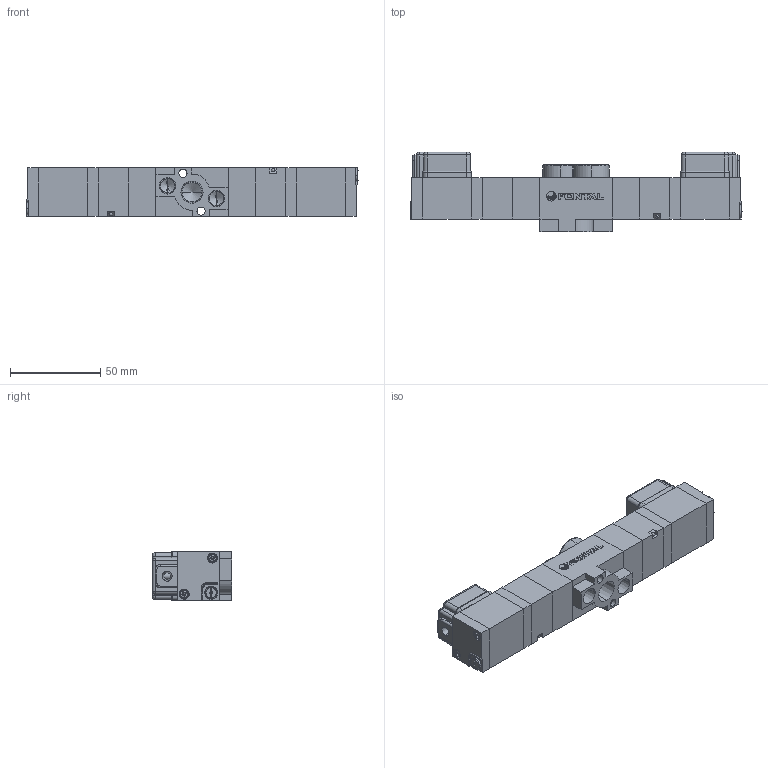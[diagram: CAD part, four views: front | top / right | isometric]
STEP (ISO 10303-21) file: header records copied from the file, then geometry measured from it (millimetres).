
FILE_DESCRIPTION (( 'STEP AP203' ), '1' );
FILE_NAME ('RCD(E¡BO)3406-02-#G##.STEP', '2016-02-04T06:07:33', ( 'Sam Lin' ), ( '' ), 'SwSTEP 2.0', 'SolidWorks 2013', '' );
FILE_SCHEMA (( 'CONFIG_CONTROL_DESIGN' ));
Length unit declared in the file: metre
Products named in the file (13): RC06-4; RC06-3; PCS2406-3-小圓珠; RC06-7=15; RC06-8=6; PCS2406-3; PC6-M4; RC06-5; PCS2406-9; PC06-MARK; RCD(E、O)3406-02-#G##; PC6-M3; RC06-1
Assembly tree (24 placements, depth 2):
  RCD(E、O)3406-02-#G##
    PC06-MARK
    RC06-1
    RC06-3  x2
    PCS2406-3-小圓珠  x2
    RC06-7=15  x2
    RC06-8=6  x2
    PCS2406-3  x2
    PC6-M4  x2
    PCS2406-9  x2
    PC6-M3  x4
    RC06-4  x2
    RC06-5  x2
Bounding box: 184 x 44 x 27.15 mm (x, y, z)
Volume: 133503 mm3; surface area: 46196.4 mm2
Topology: 30 solids, 30 shells, 676 faces, 1644 edges, 1018 vertices
Faces by surface type: plane 353, cylinder 150, bspline 83, cone 82, torus 8
Entity records: 14391 total; most frequent: CARTESIAN_POINT 3316, ORIENTED_EDGE 1944, DIRECTION 1936, EDGE_CURVE 972, AXIS2_PLACEMENT_3D 676, VERTEX_POINT 624, LINE 584, VECTOR 584
